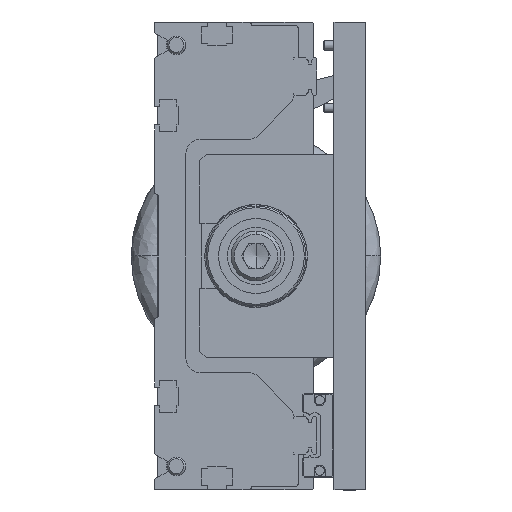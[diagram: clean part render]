
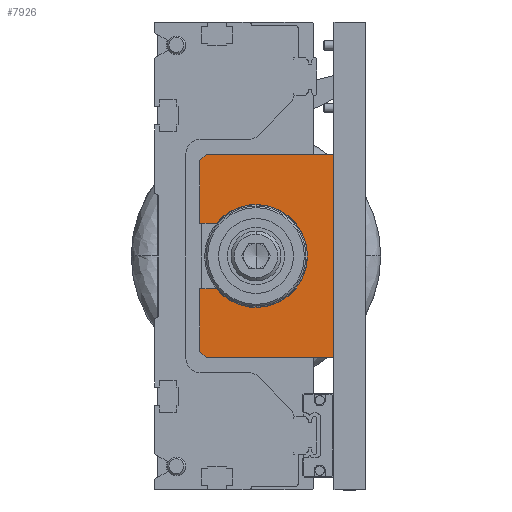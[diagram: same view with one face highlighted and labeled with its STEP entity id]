
A CAD part, front view. The second image highlights one B-rep face of the part: STEP entity #7926.
In plain terms, the highlighted planar face has unit normal (0, -1, 0).
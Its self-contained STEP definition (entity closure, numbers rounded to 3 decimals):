
#1670 = LINE ( 'NONE', #62474, #68545 ) ;
#2374 = CARTESIAN_POINT ( 'NONE',  ( 19.772, -1., -10.5 ) ) ;
#3101 = EDGE_CURVE ( 'NONE', #34688, #45617, #47109, .T. ) ;
#3499 = VERTEX_POINT ( 'NONE', #42832 ) ;
#3680 = VECTOR ( 'NONE', #10409, 1000. ) ;
#3899 = LINE ( 'NONE', #52813, #57468 ) ;
#4160 = CARTESIAN_POINT ( 'NONE',  ( 14.5, -1., -30.5 ) ) ;
#4878 = CARTESIAN_POINT ( 'NONE',  ( 32.5, -1., 0. ) ) ;
#4944 = CARTESIAN_POINT ( 'NONE',  ( 57.5, -1., -32.5 ) ) ;
#5025 = EDGE_CURVE ( 'NONE', #3499, #56065, #1670, .T. ) ;
#5177 = CARTESIAN_POINT ( 'NONE',  ( 14.5, -1., -10.5 ) ) ;
#6517 = PLANE ( 'NONE',  #56527 ) ;
#6584 = CARTESIAN_POINT ( 'NONE',  ( 14.5, -1., 10.5 ) ) ;
#7926 = ADVANCED_FACE ( 'NONE', ( #32271 ), #6517, .T. ) ;
#7992 = CARTESIAN_POINT ( 'NONE',  ( 14.5, -1., 35.75 ) ) ;
#8928 = DIRECTION ( 'NONE',  ( 0., 0., -1. ) ) ;
#9431 = CARTESIAN_POINT ( 'NONE',  ( 16.5, -1., -32.5 ) ) ;
#9777 = DIRECTION ( 'NONE',  ( 0., 0., -1. ) ) ;
#10409 = DIRECTION ( 'NONE',  ( 1., 0., 0. ) ) ;
#10999 = VECTOR ( 'NONE', #25755, 1000. ) ;
#11031 = AXIS2_PLACEMENT_3D ( 'NONE', #31972, #53271, #53722 ) ;
#11323 = CARTESIAN_POINT ( 'NONE',  ( 19.772, -1., 10.5 ) ) ;
#11427 = CARTESIAN_POINT ( 'NONE',  ( 12.35, -1., 35.75 ) ) ;
#14138 = CIRCLE ( 'NONE', #42495, 16.5 ) ;
#14815 = AXIS2_PLACEMENT_3D ( 'NONE', #37099, #58388, #63486 ) ;
#16787 = DIRECTION ( 'NONE',  ( 0., 0., -1. ) ) ;
#19127 = VERTEX_POINT ( 'NONE', #34058 ) ;
#19537 = LINE ( 'NONE', #68816, #3680 ) ;
#19763 = VERTEX_POINT ( 'NONE', #11323 ) ;
#20584 = VERTEX_POINT ( 'NONE', #9431 ) ;
#21717 = VECTOR ( 'NONE', #62139, 1000. ) ;
#21858 = LINE ( 'NONE', #47035, #10999 ) ;
#22427 = VERTEX_POINT ( 'NONE', #6584 ) ;
#22939 = EDGE_LOOP ( 'NONE', ( #58605, #63491, #53621, #59435, #50891, #58994, #56247, #46336, #33055, #47575, #60601, #59438 ) ) ;
#24182 = VECTOR ( 'NONE', #68894, 1000. ) ;
#24283 = CIRCLE ( 'NONE', #11031, 16.5 ) ;
#24590 = VERTEX_POINT ( 'NONE', #43571 ) ;
#25755 = DIRECTION ( 'NONE',  ( -1., 0., 0. ) ) ;
#27921 = CARTESIAN_POINT ( 'NONE',  ( 57.5, -1., -82.5 ) ) ;
#30113 = LINE ( 'NONE', #39935, #21717 ) ;
#30447 = EDGE_CURVE ( 'NONE', #56065, #22427, #68598, .T. ) ;
#31338 = CIRCLE ( 'NONE', #14815, 16.5 ) ;
#31598 = LINE ( 'NONE', #41804, #24182 ) ;
#31972 = CARTESIAN_POINT ( 'NONE',  ( 32.5, -1., 0. ) ) ;
#31973 = EDGE_CURVE ( 'NONE', #45617, #3499, #21858, .T. ) ;
#32271 = FACE_OUTER_BOUND ( 'NONE', #22939, .T. ) ;
#32536 = EDGE_CURVE ( 'NONE', #24590, #53618, #24283, .T. ) ;
#32844 = VECTOR ( 'NONE', #49401, 1000. ) ;
#33055 = ORIENTED_EDGE ( 'NONE', *, *, #36797, .T. ) ;
#34058 = CARTESIAN_POINT ( 'NONE',  ( 32.5, -1., 16.5 ) ) ;
#34688 = VERTEX_POINT ( 'NONE', #4944 ) ;
#36797 = EDGE_CURVE ( 'NONE', #19127, #24590, #31338, .T. ) ;
#37099 = CARTESIAN_POINT ( 'NONE',  ( 32.5, -1., 0. ) ) ;
#37594 = DIRECTION ( 'NONE',  ( 1., 0., 0. ) ) ;
#38544 = VECTOR ( 'NONE', #68374, 1000. ) ;
#38748 = DIRECTION ( 'NONE',  ( 0., -1., 0. ) ) ;
#39935 = CARTESIAN_POINT ( 'NONE',  ( 12.35, -1., -10.5 ) ) ;
#41804 = CARTESIAN_POINT ( 'NONE',  ( 14.5, -1., 35.75 ) ) ;
#41881 = VECTOR ( 'NONE', #8928, 1000. ) ;
#42305 = EDGE_CURVE ( 'NONE', #60479, #53310, #31598, .T. ) ;
#42334 = EDGE_CURVE ( 'NONE', #19763, #19127, #14138, .T. ) ;
#42495 = AXIS2_PLACEMENT_3D ( 'NONE', #4878, #47416, #9777 ) ;
#42832 = CARTESIAN_POINT ( 'NONE',  ( 16.5, -1., 32.5 ) ) ;
#43571 = CARTESIAN_POINT ( 'NONE',  ( 32.5, -1., -16.5 ) ) ;
#45617 = VERTEX_POINT ( 'NONE', #60996 ) ;
#46336 = ORIENTED_EDGE ( 'NONE', *, *, #42334, .T. ) ;
#47035 = CARTESIAN_POINT ( 'NONE',  ( 14.45, -1., 32.5 ) ) ;
#47109 = LINE ( 'NONE', #27921, #32844 ) ;
#47416 = DIRECTION ( 'NONE',  ( 0., 1., 0. ) ) ;
#47575 = ORIENTED_EDGE ( 'NONE', *, *, #32536, .T. ) ;
#48628 = CARTESIAN_POINT ( 'NONE',  ( 14.5, -1., -30.5 ) ) ;
#49401 = DIRECTION ( 'NONE',  ( 0., 0., 1. ) ) ;
#50891 = ORIENTED_EDGE ( 'NONE', *, *, #5025, .T. ) ;
#52777 = LINE ( 'NONE', #4160, #38544 ) ;
#52813 = CARTESIAN_POINT ( 'NONE',  ( 12.35, -1., 10.5 ) ) ;
#52978 = EDGE_CURVE ( 'NONE', #53310, #20584, #52777, .T. ) ;
#53271 = DIRECTION ( 'NONE',  ( 0., 1., 0. ) ) ;
#53310 = VERTEX_POINT ( 'NONE', #48628 ) ;
#53584 = EDGE_CURVE ( 'NONE', #53618, #60479, #30113, .T. ) ;
#53618 = VERTEX_POINT ( 'NONE', #2374 ) ;
#53621 = ORIENTED_EDGE ( 'NONE', *, *, #3101, .T. ) ;
#53722 = DIRECTION ( 'NONE',  ( 0., 0., -1. ) ) ;
#56065 = VERTEX_POINT ( 'NONE', #57348 ) ;
#56247 = ORIENTED_EDGE ( 'NONE', *, *, #61674, .T. ) ;
#56527 = AXIS2_PLACEMENT_3D ( 'NONE', #11427, #38748, #16787 ) ;
#57303 = EDGE_CURVE ( 'NONE', #20584, #34688, #19537, .T. ) ;
#57348 = CARTESIAN_POINT ( 'NONE',  ( 14.5, -1., 30.5 ) ) ;
#57468 = VECTOR ( 'NONE', #37594, 1000. ) ;
#58388 = DIRECTION ( 'NONE',  ( 0., 1., 0. ) ) ;
#58605 = ORIENTED_EDGE ( 'NONE', *, *, #52978, .T. ) ;
#58994 = ORIENTED_EDGE ( 'NONE', *, *, #30447, .T. ) ;
#59435 = ORIENTED_EDGE ( 'NONE', *, *, #31973, .T. ) ;
#59438 = ORIENTED_EDGE ( 'NONE', *, *, #42305, .T. ) ;
#60479 = VERTEX_POINT ( 'NONE', #5177 ) ;
#60601 = ORIENTED_EDGE ( 'NONE', *, *, #53584, .T. ) ;
#60996 = CARTESIAN_POINT ( 'NONE',  ( 57.5, -1., 32.5 ) ) ;
#61674 = EDGE_CURVE ( 'NONE', #22427, #19763, #3899, .T. ) ;
#62139 = DIRECTION ( 'NONE',  ( -1., 0., 0. ) ) ;
#62474 = CARTESIAN_POINT ( 'NONE',  ( 16.5, -1., 32.5 ) ) ;
#63486 = DIRECTION ( 'NONE',  ( 0., 0., -1. ) ) ;
#63491 = ORIENTED_EDGE ( 'NONE', *, *, #57303, .T. ) ;
#68091 = DIRECTION ( 'NONE',  ( -0.707, 0., -0.707 ) ) ;
#68374 = DIRECTION ( 'NONE',  ( 0.707, 0., -0.707 ) ) ;
#68545 = VECTOR ( 'NONE', #68091, 1000. ) ;
#68598 = LINE ( 'NONE', #7992, #41881 ) ;
#68816 = CARTESIAN_POINT ( 'NONE',  ( 12.35, -1., -32.5 ) ) ;
#68894 = DIRECTION ( 'NONE',  ( 0., 0., -1. ) ) ;
